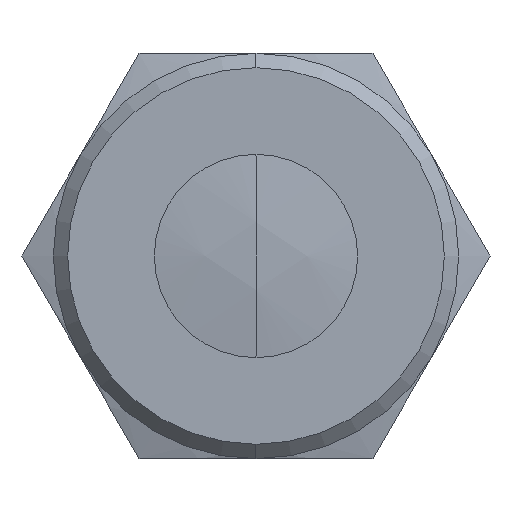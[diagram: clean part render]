
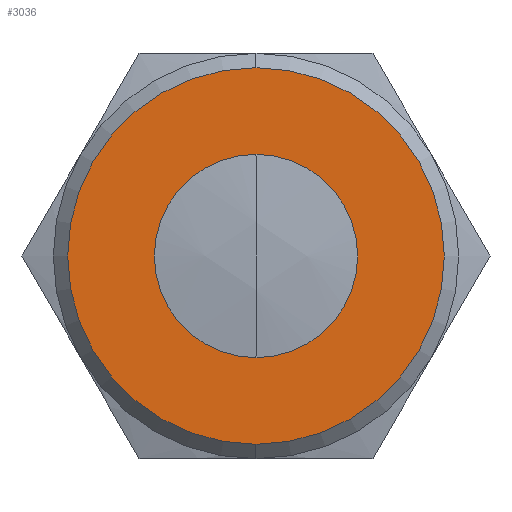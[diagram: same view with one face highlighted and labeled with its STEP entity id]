
A CAD part, left-side view. The second image highlights one B-rep face of the part: STEP entity #3036.
In plain terms, the highlighted planar face has unit normal (-1, 0, 0).
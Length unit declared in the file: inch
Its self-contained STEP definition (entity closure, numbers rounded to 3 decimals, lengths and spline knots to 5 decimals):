
#135=CARTESIAN_POINT('',(-1.673,0.,-0.2195));
#136=VERTEX_POINT('',#135);
#145=CARTESIAN_POINT('',(-1.673,0.,0.2195));
#146=VERTEX_POINT('',#145);
#153=CARTESIAN_POINT('',(-1.673,0.,0.));
#154=DIRECTION('',(1.0,0.0,0.0));
#155=DIRECTION('',(0.0,0.0,-1.0));
#156=AXIS2_PLACEMENT_3D('',#153,#154,#155);
#157=CIRCLE('',#156,0.2195);
#158=EDGE_CURVE('',#136,#146,#157,.T.);
#288=CARTESIAN_POINT('',(-1.673,0.,-0.4065));
#289=VERTEX_POINT('',#288);
#296=CARTESIAN_POINT('',(-1.673,0.,0.4065));
#297=VERTEX_POINT('',#296);
#298=CARTESIAN_POINT('',(-1.673,0.,0.));
#299=DIRECTION('',(1.0,0.0,0.0));
#300=DIRECTION('',(0.0,0.0,-1.0));
#301=AXIS2_PLACEMENT_3D('',#298,#299,#300);
#302=CIRCLE('',#301,0.4065);
#303=EDGE_CURVE('',#289,#297,#302,.T.);
#3007=CARTESIAN_POINT('',(-1.673,0.,0.));
#3008=DIRECTION('',(1.0,0.0,0.0));
#3009=DIRECTION('',(0.0,0.0,-1.0));
#3010=AXIS2_PLACEMENT_3D('',#3007,#3008,#3009);
#3011=CIRCLE('',#3010,0.4065);
#3012=EDGE_CURVE('',#297,#289,#3011,.T.);
#3017=CARTESIAN_POINT('',(-1.673,0.,-0.20325));
#3018=DIRECTION('',(-1.0,0.0,0.0));
#3019=DIRECTION('',(0.0,-1.0,0.0));
#3020=AXIS2_PLACEMENT_3D('',#3017,#3018,#3019);
#3021=PLANE('',#3020);
#3022=ORIENTED_EDGE('',*,*,#303,.F.);
#3023=ORIENTED_EDGE('',*,*,#3012,.F.);
#3024=EDGE_LOOP('',(#3022,#3023));
#3025=FACE_OUTER_BOUND('',#3024,.T.);
#3026=ORIENTED_EDGE('',*,*,#158,.T.);
#3027=CARTESIAN_POINT('',(-1.673,0.,0.));
#3028=DIRECTION('',(1.0,0.0,0.0));
#3029=DIRECTION('',(0.0,0.0,-1.0));
#3030=AXIS2_PLACEMENT_3D('',#3027,#3028,#3029);
#3031=CIRCLE('',#3030,0.2195);
#3032=EDGE_CURVE('',#146,#136,#3031,.T.);
#3033=ORIENTED_EDGE('',*,*,#3032,.T.);
#3034=EDGE_LOOP('',(#3026,#3033));
#3035=FACE_BOUND('',#3034,.T.);
#3036=ADVANCED_FACE('',(#3025,#3035),#3021,.T.);
